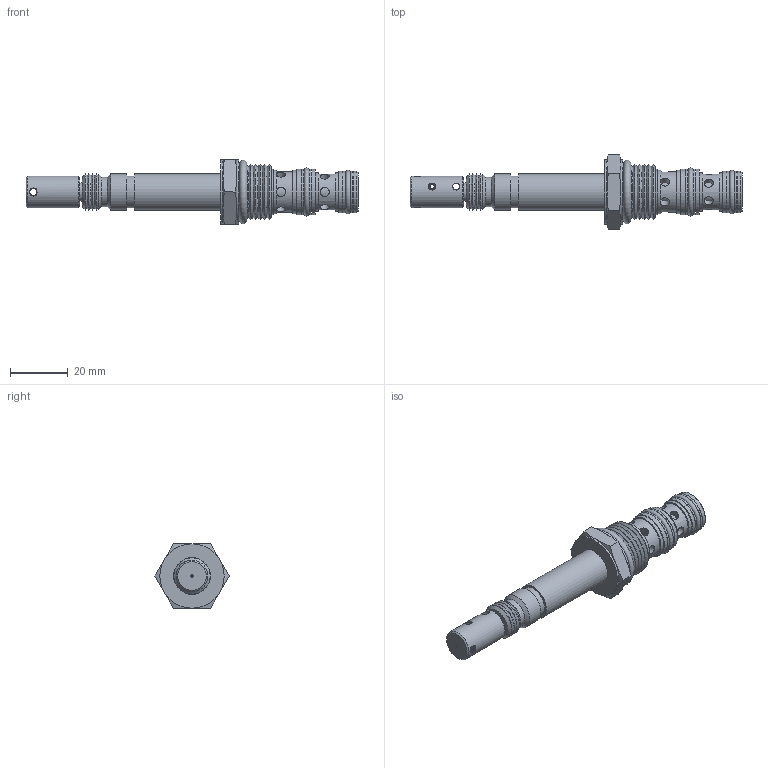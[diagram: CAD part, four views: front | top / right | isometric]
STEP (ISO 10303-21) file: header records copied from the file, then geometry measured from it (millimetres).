
FILE_DESCRIPTION((''),'2;1');
FILE_NAME('Q:\Delta CADD Insertion Codes\3D Solid models\Solenoid Valves\STEP\PPS3B0M.stp','2013-03-27T14:41:50',('Dan'),(''),'Autodesk Inventor 2012','Autodesk Inventor 2012','');
FILE_SCHEMA(('AUTOMOTIVE_DESIGN { 1 0 10303 214 1 1 1 1 }'));
Length unit declared in the file: inch
Products named in the file (10): PPS3A0M; PPS3A0M-3D Full1; PPS3A0M-3D Full2; PPS3A0M-3D Full3; PPS3A0M-3D Full4; PPS3A0M-3D Full5; PPS3A0M-3D Full6; PPS3A0M-3D Full7; PPS3A0M-3D Full8; PPS3A0M-3D Full9
Assembly tree (9 placements, depth 2):
  PPS3A0M
    PPS3A0M-3D Full1
    PPS3A0M-3D Full2
    PPS3A0M-3D Full3
    PPS3A0M-3D Full4
    PPS3A0M-3D Full5
    PPS3A0M-3D Full6
    PPS3A0M-3D Full7
    PPS3A0M-3D Full8
    PPS3A0M-3D Full9
Bounding box: 114.81 x 25.66 x 22.23 mm (x, y, z)
Volume: 17229.3 mm3; surface area: 9143.5 mm2
Topology: 9 solids, 9 shells, 200 faces, 464 edges, 299 vertices
Faces by surface type: cone 87, cylinder 61, plane 47, torus 5
Full cylindrical faces by diameter (mm): 0.889 x2, 2.426 x2, 3.175 x12, 6.388 x1, 7.948 x1, 10.161 x1, 10.922 x1, 10.938 x1, 11.455 x1, 11.506 x2, 12.421 x1, 12.548 x1, 12.675 x1, 13.056 x1, 13.106 x2, 13.437 x2, 14.021 x1, 14.199 x4, 15.037 x2, 15.799 x5, 16.751 x1, 22.225 x2
Entity records: 6495 total; most frequent: CARTESIAN_POINT 2234, DIRECTION 806, ORIENTED_EDGE 686, AXIS2_PLACEMENT_3D 390, EDGE_LOOP 355, EDGE_CURVE 343, VERTEX_POINT 294, FACE_OUTER_BOUND 200
